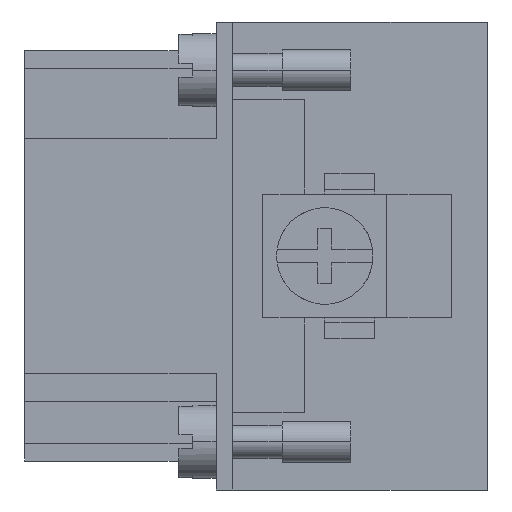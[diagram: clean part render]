
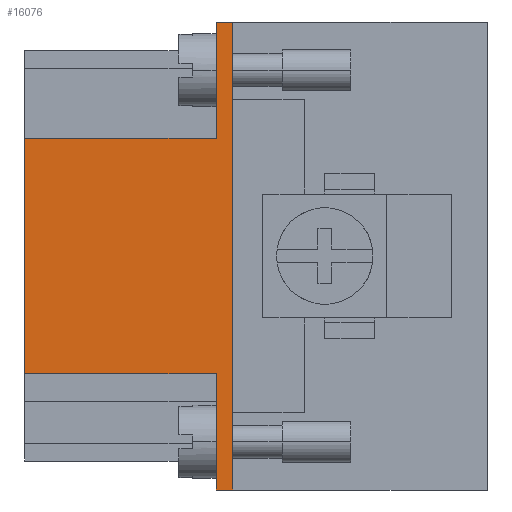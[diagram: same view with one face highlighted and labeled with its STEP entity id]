
A CAD part, left-side view. The second image highlights one B-rep face of the part: STEP entity #16076.
In plain terms, the highlighted planar face has unit normal (-1, 0, 0).
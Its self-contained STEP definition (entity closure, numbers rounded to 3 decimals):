
#59 = EDGE_CURVE ( 'NONE', #6356, #1426, #11624, .T. ) ;
#148 = CARTESIAN_POINT ( 'NONE',  ( -42.25, -13.9, 8.55 ) ) ;
#257 = EDGE_CURVE ( 'NONE', #4823, #14484, #1676, .T. ) ;
#455 = CARTESIAN_POINT ( 'NONE',  ( -42.25, -13.9, -17. ) ) ;
#765 = CARTESIAN_POINT ( 'NONE',  ( -42.25, 0., 8.55 ) ) ;
#768 = VECTOR ( 'NONE', #3081, 1000. ) ;
#1142 = CARTESIAN_POINT ( 'NONE',  ( -42.25, -13.9, -17. ) ) ;
#1213 = EDGE_LOOP ( 'NONE', ( #3605, #7800, #6584, #12994, #5930, #12881, #2841, #11849 ) ) ;
#1426 = VERTEX_POINT ( 'NONE', #765 ) ;
#1669 = LINE ( 'NONE', #4589, #8265 ) ;
#1676 = LINE ( 'NONE', #15924, #4596 ) ;
#1950 = DIRECTION ( 'NONE',  ( 0., 0., -1. ) ) ;
#2121 = DIRECTION ( 'NONE',  ( 0., 1., 0. ) ) ;
#2229 = EDGE_CURVE ( 'NONE', #6356, #7702, #10844, .T. ) ;
#2364 = AXIS2_PLACEMENT_3D ( 'NONE', #10320, #7855, #5470 ) ;
#2632 = CARTESIAN_POINT ( 'NONE',  ( -42.25, 0., -8.55 ) ) ;
#2776 = CARTESIAN_POINT ( 'NONE',  ( -42.25, -13.9, -8.55 ) ) ;
#2837 = EDGE_CURVE ( 'NONE', #15954, #6907, #1669, .T. ) ;
#2841 = ORIENTED_EDGE ( 'NONE', *, *, #3185, .F. ) ;
#3081 = DIRECTION ( 'NONE',  ( 0., 0., 1. ) ) ;
#3185 = EDGE_CURVE ( 'NONE', #14722, #6907, #4384, .T. ) ;
#3605 = ORIENTED_EDGE ( 'NONE', *, *, #2229, .F. ) ;
#3636 = CARTESIAN_POINT ( 'NONE',  ( -42.25, -13.9, -17. ) ) ;
#4272 = LINE ( 'NONE', #5773, #768 ) ;
#4384 = LINE ( 'NONE', #5857, #6691 ) ;
#4589 = CARTESIAN_POINT ( 'NONE',  ( -42.25, -13.9, -17. ) ) ;
#4596 = VECTOR ( 'NONE', #4906, 1000. ) ;
#4610 = VECTOR ( 'NONE', #2121, 1000. ) ;
#4821 = VECTOR ( 'NONE', #6118, 1000. ) ;
#4823 = VERTEX_POINT ( 'NONE', #2776 ) ;
#4906 = DIRECTION ( 'NONE',  ( 0., 1., 0. ) ) ;
#5470 = DIRECTION ( 'NONE',  ( 0., 0., 1. ) ) ;
#5773 = CARTESIAN_POINT ( 'NONE',  ( -42.25, 0., 8.55 ) ) ;
#5857 = CARTESIAN_POINT ( 'NONE',  ( -42.25, -15.1, 8.55 ) ) ;
#5930 = ORIENTED_EDGE ( 'NONE', *, *, #9408, .F. ) ;
#6118 = DIRECTION ( 'NONE',  ( 0., 0., 1. ) ) ;
#6356 = VERTEX_POINT ( 'NONE', #148 ) ;
#6556 = LINE ( 'NONE', #11534, #16087 ) ;
#6565 = VECTOR ( 'NONE', #13208, 1000. ) ;
#6584 = ORIENTED_EDGE ( 'NONE', *, *, #8759, .F. ) ;
#6691 = VECTOR ( 'NONE', #1950, 1000. ) ;
#6907 = VERTEX_POINT ( 'NONE', #7359 ) ;
#7168 = CARTESIAN_POINT ( 'NONE',  ( -42.25, -13.9, 17. ) ) ;
#7359 = CARTESIAN_POINT ( 'NONE',  ( -42.25, -15.1, -17. ) ) ;
#7702 = VERTEX_POINT ( 'NONE', #7168 ) ;
#7800 = ORIENTED_EDGE ( 'NONE', *, *, #59, .T. ) ;
#7855 = DIRECTION ( 'NONE',  ( -1., 0., 0. ) ) ;
#8106 = LINE ( 'NONE', #1142, #4821 ) ;
#8159 = CARTESIAN_POINT ( 'NONE',  ( -42.25, -15.1, 17. ) ) ;
#8265 = VECTOR ( 'NONE', #8322, 1000. ) ;
#8322 = DIRECTION ( 'NONE',  ( 0., -1., 0. ) ) ;
#8759 = EDGE_CURVE ( 'NONE', #14484, #1426, #4272, .T. ) ;
#9408 = EDGE_CURVE ( 'NONE', #15954, #4823, #8106, .T. ) ;
#9580 = CARTESIAN_POINT ( 'NONE',  ( -42.25, -34.241, 8.55 ) ) ;
#10320 = CARTESIAN_POINT ( 'NONE',  ( -42.25, -34.241, 8.55 ) ) ;
#10334 = DIRECTION ( 'NONE',  ( 0., -1., 0. ) ) ;
#10844 = LINE ( 'NONE', #455, #6565 ) ;
#11517 = PLANE ( 'NONE',  #2364 ) ;
#11534 = CARTESIAN_POINT ( 'NONE',  ( -42.25, -13.9, 17. ) ) ;
#11624 = LINE ( 'NONE', #9580, #4610 ) ;
#11849 = ORIENTED_EDGE ( 'NONE', *, *, #13013, .F. ) ;
#12881 = ORIENTED_EDGE ( 'NONE', *, *, #2837, .T. ) ;
#12994 = ORIENTED_EDGE ( 'NONE', *, *, #257, .F. ) ;
#13013 = EDGE_CURVE ( 'NONE', #7702, #14722, #6556, .T. ) ;
#13208 = DIRECTION ( 'NONE',  ( 0., 0., 1. ) ) ;
#14484 = VERTEX_POINT ( 'NONE', #2632 ) ;
#14722 = VERTEX_POINT ( 'NONE', #8159 ) ;
#15601 = FACE_OUTER_BOUND ( 'NONE', #1213, .T. ) ;
#15924 = CARTESIAN_POINT ( 'NONE',  ( -42.25, -34.241, -8.55 ) ) ;
#15954 = VERTEX_POINT ( 'NONE', #3636 ) ;
#16076 = ADVANCED_FACE ( 'NONE', ( #15601 ), #11517, .T. ) ;
#16087 = VECTOR ( 'NONE', #10334, 1000. ) ;
